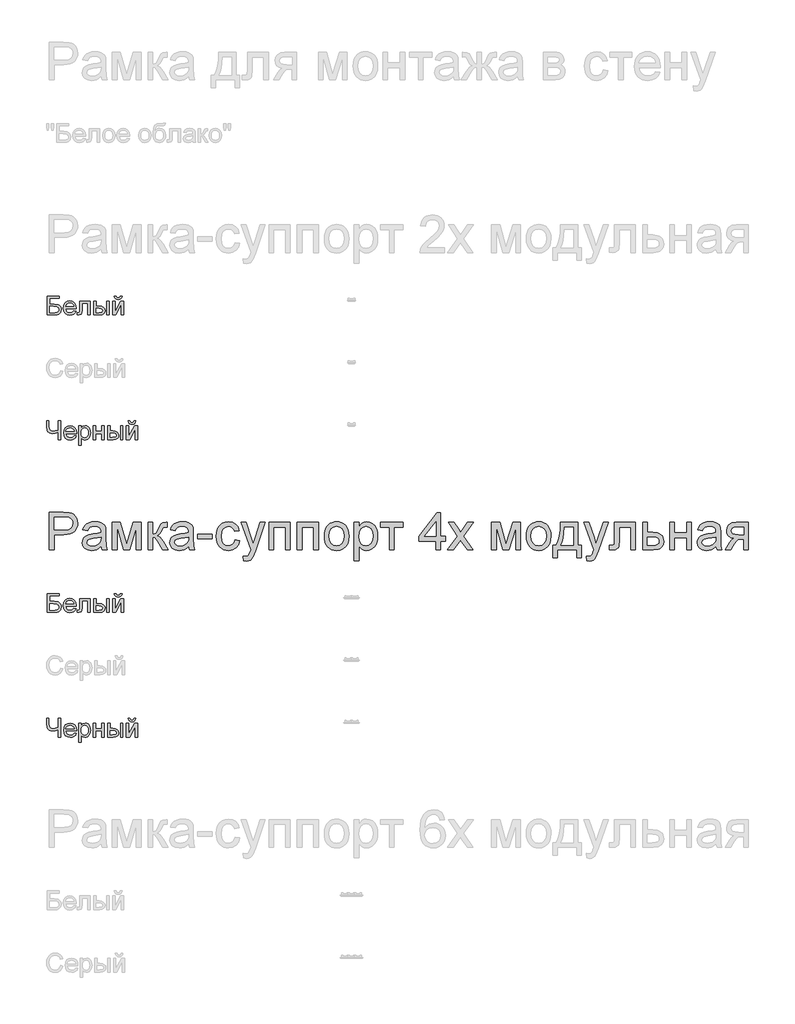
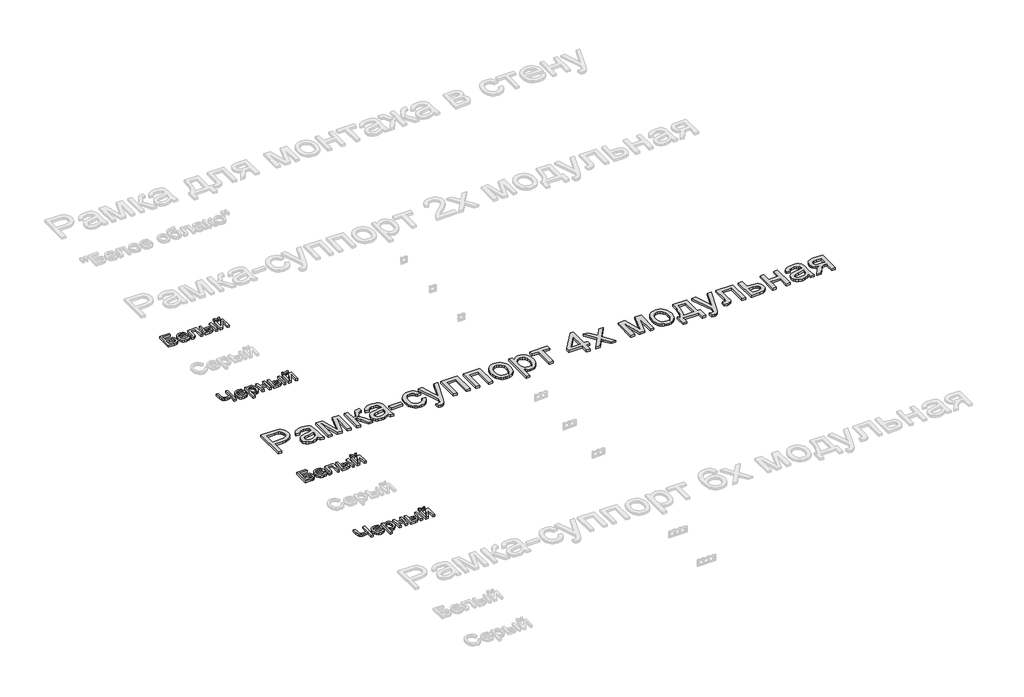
# One storey, part 43 of 168: 5 proxies.
"""IFC4 building model written with IfcOpenShell, lengths in millimetres."""

from ifc_helpers import new_model, si_unit, origin, origin_with_axes, place, context, project, spatial, polyline, outline, extrude, element, save

model = new_model("IFC4")

# Units and contexts
model_context = context("Model", 3, world=origin())
ifc_project = project(units=[si_unit("LENGTHUNIT", "METRE", prefix="MILLI")], contexts=[model_context])

# Site, building, storey
site = spatial("IfcSite", under=ifc_project)
building = spatial("IfcBuilding", under=site)
storey = spatial("IfcBuildingStorey", under=building, Name="Этаж 01", Elevation=0.0)

# Proxies
placement = place(None, origin())
element("IfcBuildingElementProxy", 1, Name="300 мм Arial 2", ObjectType="300 мм Arial 2", at=placement, inside=storey, context=model_context, shape_type="SweptSolid", body=[
    extrude(outline(polyline([(32899.0945017, -36116.3278495), (32899.0945017, -35814.958919), (33010.7834754, -35814.958919), (33055.8122316, -35817.8283986), (33075.8893915, -35823.1902787), (33092.4164901, -35831.918279), (33105.7246213, -35844.4078727), (33116.1448788, -35861.054533), (33122.8771193, -35880.6902345), (33125.1211995, -35902.1469519), (33123.6059855, -35920.6468177), (33119.0603436, -35937.6659585), (33111.4842738, -35953.2043743), (33100.877776, -35967.262065), (33086.3165468, -35978.9147272), (33066.8762826, -35987.2380574), (33042.5569835, -35992.2320554), (33013.3586494, -35993.8967215), (32936.765618, -35993.8967215), (32936.765618, -36116.3278495), (32899.0945017, -36116.3278495)]), holes=[polyline([(32936.765618, -35956.2256052), (33015.5659413, -35956.2256052), (33048.9696265, -35952.7675144), (33071.0425462, -35942.3932421), (33083.3481989, -35925.7465819), (33087.4500832, -35903.4713271), (33085.0312591, -35886.5487553), (33077.7747867, -35872.2749339), (33066.581977, -35861.5327796), (33052.3541408, -35855.2052093), (33014.6830245, -35852.6300353), (32936.765618, -35852.6300353), (32936.765618, -35956.2256052)])]), origin_with_axes(), (0.0, 0.0, 1.0), 20.0),
    extrude(outline(polyline([(33313.476781, -36088.0745122), (33295.4781544, -36103.5071619), (33276.9460989, -36113.6055227), (33257.4575502, -36119.1789349), (33236.589444, -36121.036739), (33205.1079423, -36116.5669728), (33181.8853914, -36103.157674), (33167.5655847, -36082.7954056), (33162.7923158, -36057.4667302), (33164.5949376, -36041.8501395), (33170.0028029, -36027.6682886), (33178.3445271, -36015.5281828), (33188.9487257, -36006.0368273), (33215.3258647, -35993.6759923), (33247.9202095, -35988.0106095), (33286.4374544, -35982.0509212), (33313.2560518, -35975.0611633), (33313.476781, -35966.6734538), (33310.883213, -35949.8612466), (33303.1025088, -35938.861575), (33285.7016904, -35930.6945947), (33261.4582669, -35927.9722679), (33239.0174652, -35929.7840868), (33223.3456922, -35935.2195432), (33212.6587202, -35945.2719188), (33205.1723216, -35960.9344947), (33167.5012053, -35956.2256052), (33174.0403078, -35935.6242134), (33183.7983777, -35919.4374056), (33197.685923, -35907.0581765), (33216.6134517, -35897.8795207), (33239.7624262, -35892.1957439), (33266.3143092, -35890.3011516), (33291.7809404, -35891.9750147), (33311.9684648, -35896.9966039), (33327.1895824, -35904.5473819), (33337.7569927, -35913.8088111), (33344.7651447, -35925.2591382), (33349.3084874, -35939.3766098), (33351.1478973, -35972.3388365), (33351.1478973, -36019.2070027), (33353.0608837, -36084.6532097), (33360.5656764, -36116.3278495), (33322.8945601, -36116.3278495), (33313.476781, -36088.0745122)]), holes=[polyline([(33313.476781, -36012.7322796), (33252.7026754, -36024.2837743), (33220.2922716, -36030.3906154), (33205.61378, -36040.3234293), (33200.4634321, -36054.8179799), (33203.2685323, -36066.0199866), (33211.683833, -36075.1986424), (33225.525393, -36081.3238776), (33244.6092715, -36083.3656227), (33264.8427813, -36081.1123455), (33282.7218462, -36074.3525138), (33297.2163968, -36064.3921088), (33307.2963635, -36052.5371115), (33311.7661297, -36040.3234293), (33313.2560518, -36023.4008575), (33313.476781, -36012.7322796)])]), origin_with_axes(), (0.0, 0.0, 1.0), 20.0),
    extrude(outline(polyline([(33402.9456823, -35895.0100412), (33467.7664898, -35895.0100412), (33517.7248647, -36072.18201), (33571.5827888, -35895.0100412), (33633.6812696, -35895.0100412), (33633.6812696, -36116.3278495), (33596.0101533, -36116.3278495), (33596.0101533, -35938.125811), (33541.8579236, -36116.3278495), (33492.4145835, -36116.3278495), (33440.6167986, -35929.5909487), (33440.6167986, -36116.3278495), (33402.9456823, -36116.3278495), (33402.9456823, -35895.0100412)])), origin_with_axes(), (0.0, 0.0, 1.0), 20.0),
    extrude(outline(polyline([(33690.1879441, -35895.0100412), (33727.8590604, -35895.0100412), (33727.8590604, -35989.1878319), (33743.1813455, -35987.4955748), (33753.0957653, -35982.4188032), (33761.8697508, -35969.1750514), (33773.7707334, -35942.9818533), (33790.9508226, -35908.9527688), (33806.1075608, -35897.8795207), (33833.6619222, -35895.0100412), (33840.8724093, -35895.0100412), (33840.8724093, -35932.9018867), (33830.7188662, -35932.6811575), (33812.3247665, -35936.654283), (33799.3753203, -35961.4495295), (33784.1817939, -35988.2681269), (33762.8814263, -36001.4015142), (33774.8191971, -36006.7036134), (33786.6466032, -36016.0616117), (33809.9703217, -36046.9453052), (33850.2901884, -36116.3278495), (33807.4687241, -36116.3278495), (33767.9581979, -36048.4168332), (33748.0925701, -36019.6852493), (33738.8035497, -36014.470522), (33727.8590604, -36012.7322796), (33727.8590604, -36116.3278495), (33690.1879441, -36116.3278495), (33690.1879441, -35895.0100412)])), origin_with_axes(), (0.0, 0.0, 1.0), 20.0),
    extrude(outline(polyline([(34015.1013222, -36088.0745122), (33997.1026956, -36103.5071619), (33978.5706401, -36113.6055227), (33959.0820914, -36119.1789349), (33938.2139852, -36121.036739), (33906.7324835, -36116.5669728), (33883.5099326, -36103.157674), (33869.1901259, -36082.7954056), (33864.416857, -36057.4667302), (33866.2194788, -36041.8501395), (33871.6273441, -36027.6682886), (33879.9690683, -36015.5281828), (33890.5732669, -36006.0368273), (33916.9504059, -35993.6759923), (33949.5447507, -35988.0106095), (33988.0619956, -35982.0509212), (34014.880593, -35975.0611633), (34015.1013222, -35966.6734538), (34012.5077542, -35949.8612466), (34004.72705, -35938.861575), (33987.3262316, -35930.6945947), (33963.0828081, -35927.9722679), (33940.6420064, -35929.7840868), (33924.9702334, -35935.2195432), (33914.2832614, -35945.2719188), (33906.7968628, -35960.9344947), (33869.1257465, -35956.2256052), (33875.664849, -35935.6242134), (33885.4229189, -35919.4374056), (33899.3104642, -35907.0581765), (33918.2379929, -35897.8795207), (33941.3869674, -35892.1957439), (33967.9388504, -35890.3011516), (33993.4054816, -35891.9750147), (34013.593006, -35896.9966039), (34028.8141236, -35904.5473819), (34039.3815339, -35913.8088111), (34046.3896859, -35925.2591382), (34050.9330286, -35939.3766098), (34052.7724385, -35972.3388365), (34052.7724385, -36019.2070027), (34054.6854249, -36084.6532097), (34062.1902176, -36116.3278495), (34024.5191013, -36116.3278495), (34015.1013222, -36088.0745122)]), holes=[polyline([(34015.1013222, -36012.7322796), (33954.3272166, -36024.2837743), (33921.9168128, -36030.3906154), (33907.2383212, -36040.3234293), (33902.0879733, -36054.8179799), (33904.8930735, -36066.0199866), (33913.3083742, -36075.1986424), (33927.1499342, -36081.3238776), (33946.2338127, -36083.3656227), (33966.4673225, -36081.1123455), (33984.3463874, -36074.3525138), (33998.840938, -36064.3921088), (34008.9209047, -36052.5371115), (34013.3906709, -36040.3234293), (34014.880593, -36023.4008575), (34015.1013222, -36012.7322796)])]), origin_with_axes(), (0.0, 0.0, 1.0), 20.0),
    extrude(outline(polyline([(34085.7346653, -36026.8589482), (34085.7346653, -35989.1878319), (34203.4569038, -35989.1878319), (34203.4569038, -36026.8589482), (34085.7346653, -36026.8589482)])), origin_with_axes(), (0.0, 0.0, 1.0), 20.0),
    extrude(outline(polyline([(34387.1035957, -36036.2767273), (34424.7747121, -36040.9856168), (34414.2716811, -36074.4904696), (34394.5348121, -36099.8099479), (34367.421909, -36115.7300412), (34334.790776, -36121.036739), (34313.6628532, -36119.1858327), (34294.7192297, -36113.6331138), (34277.9599056, -36104.3785824), (34263.3848808, -36091.4222384), (34251.587365, -36075.0078036), (34243.1605681, -36055.3789999), (34238.1044899, -36032.5358273), (34236.4191305, -36006.4782857), (34239.2978071, -35972.9550389), (34247.933837, -35943.9015583), (34262.4651758, -35920.4398841), (34283.0297793, -35903.6920562), (34307.6318877, -35893.6488778), (34334.2757412, -35890.3011516), (34366.1067309, -35894.8996766), (34391.5549679, -35908.6952514), (34409.8111119, -35930.9521121), (34420.0658225, -35960.9344947), (34382.3947062, -35965.6433842), (34375.5612982, -35949.2082561), (34364.9203114, -35937.4268352), (34351.0603573, -35930.3359098), (34334.5700468, -35927.9722679), (34310.2254558, -35932.6259752), (34290.902454, -35946.5870969), (34278.2932986, -35970.6097912), (34274.0902468, -36005.4482161), (34278.2013281, -36040.7556906), (34290.534572, -36064.8611583), (34309.5080859, -36078.7395066), (34333.5399773, -36083.3656227), (34353.04692, -36080.477749), (34369.0405898, -36071.814128), (34380.6748579, -36057.1540305), (34387.1035957, -36036.2767273)])), origin_with_axes(), (0.0, 0.0, 1.0), 20.0),
    extrude(outline(polyline([(34457.7369388, -36201.0878612), (34453.0280493, -36164.8146964), (34472.157913, -36168.1256344), (34490.036978, -36163.9685678), (34500.9998615, -36152.380285), (34511.3005573, -36124.6419826), (34514.2436133, -36115.5185091), (34434.1924911, -35895.0100412), (34473.9237466, -35895.0100412), (34516.3773289, -36017.8826276), (34531.1661851, -36067.0316621), (34545.9550413, -36023.6215867), (34589.5858459, -35895.0100412), (34629.0227958, -35895.0100412), (34551.988306, -36121.6253502), (34531.9755254, -36170.7743847), (34521.7300119, -36186.4645518), (34510.1233349, -36197.3354648), (34496.6404598, -36203.6814292), (34480.7663517, -36205.7967507), (34457.7369388, -36201.0878612)])), origin_with_axes(), (0.0, 0.0, 1.0), 20.0),
    extrude(outline(polyline([(34660.219189, -35895.0100412), (34829.7392123, -35895.0100412), (34829.7392123, -36116.3278495), (34792.068096, -36116.3278495), (34792.068096, -35932.6811575), (34697.8903053, -35932.6811575), (34697.8903053, -36116.3278495), (34660.219189, -36116.3278495), (34660.219189, -35895.0100412)])), origin_with_axes(), (0.0, 0.0, 1.0), 20.0),
    extrude(outline(polyline([(34886.2458868, -35895.0100412), (35055.7659102, -35895.0100412), (35055.7659102, -36116.3278495), (35018.0947939, -36116.3278495), (35018.0947939, -35932.6811575), (34923.9170031, -35932.6811575), (34923.9170031, -36116.3278495), (34886.2458868, -36116.3278495), (34886.2458868, -35895.0100412)])), origin_with_axes(), (0.0, 0.0, 1.0), 20.0),
    extrude(outline(polyline([(35102.8548056, -36005.6689453), (35104.8919521, -35977.0063394), (35111.0033918, -35952.3076619), (35121.1891245, -35931.572913), (35135.4491503, -35914.8020925), (35149.8057452, -35904.0829309), (35165.6522621, -35896.4263868), (35182.9887012, -35891.8324604), (35201.8150623, -35890.3011516), (35222.5980957, -35892.1658535), (35241.3899679, -35897.7599591), (35258.1906788, -35907.0834684), (35273.0002283, -35920.1363814), (35285.0874511, -35936.4772398), (35293.7211817, -35955.6645851), (35298.9014201, -35977.6984174), (35300.6281662, -36002.5787366), (35297.5747456, -36040.636129), (35288.4144839, -36069.6068361), (35273.4140956, -36091.3026767), (35252.840295, -36107.5354698), (35228.4037335, -36117.6614217), (35201.8150623, -36121.036739), (35180.7285262, -36119.1789349), (35161.76191, -36113.6055227), (35144.9152139, -36104.3165023), (35130.1884378, -36091.3118738), (35118.2299737, -36074.8123663), (35109.6882136, -36055.0387091), (35104.5631576, -36031.9909021), (35102.8548056, -36005.6689453)]), holes=[polyline([(35140.5259219, -36005.5953689), (35144.8853235, -36039.6888328), (35157.9635284, -36063.9782415), (35177.6452152, -36078.5187774), (35201.8150623, -36083.3656227), (35225.8745448, -36078.4911863), (35245.5194433, -36063.8678769), (35258.5976482, -36039.2565715), (35262.9570499, -36004.4181465), (35258.5700571, -35971.317964), (35245.4090787, -35947.3596491), (35225.736589, -35932.8191132), (35201.8150623, -35927.9722679), (35177.6452152, -35932.8007191), (35157.9635284, -35947.2860727), (35144.8853235, -35971.5202991), (35140.5259219, -36005.5953689)])]), origin_with_axes(), (0.0, 0.0, 1.0), 20.0),
    extrude(outline(polyline([(35343.008172, -36201.0878612), (35343.008172, -35895.0100412), (35380.6792883, -35895.0100412), (35380.6792883, -35931.9453935), (35392.966547, -35913.7260377), (35406.7253336, -35900.7122121), (35422.7649886, -35892.9039167), (35441.8948523, -35890.3011516), (35467.3706805, -35893.9431834), (35489.6459353, -35904.8692786), (35507.7825177, -35922.4172498), (35520.8423285, -35945.9249093), (35528.7333973, -35973.6816058), (35531.3637535, -36003.9766881), (35528.3931064, -36036.1939539), (35519.4811651, -36065.0083111), (35504.9130381, -36088.957429), (35484.973834, -36106.5789766), (35461.751283, -36117.4222984), (35437.3331156, -36121.036739), (35420.0150707, -36118.6179149), (35404.5548298, -36111.3614425), (35391.320275, -36100.4077561), (35380.6792883, -36086.8972898), (35380.6792883, -36201.0878612), (35343.008172, -36201.0878612)]), holes=[polyline([(35380.6792883, -36007.4347789), (35384.7535814, -36041.206346), (35396.9764607, -36064.8243701), (35415.0118755, -36078.7303096), (35436.5237752, -36083.3656227), (35458.3851628, -36078.5647627), (35476.8804301, -36064.1621825), (35489.4895854, -36039.6796358), (35493.6926372, -36004.6388757), (35489.590753, -35971.0512496), (35477.2851003, -35947.1021317), (35459.2772766, -35932.7547339), (35438.0688796, -35927.9722679), (35416.7777091, -35933.0582365), (35398.0801067, -35948.3161423), (35385.0294929, -35973.2677386), (35380.6792883, -36007.4347789)])]), origin_with_axes(), (0.0, 0.0, 1.0), 20.0),
    extrude(outline(polyline([(35554.9082012, -35895.0100412), (35733.8460037, -35895.0100412), (35733.8460037, -35932.6811575), (35663.2126606, -35932.6811575), (35663.2126606, -36116.3278495), (35625.5415443, -36116.3278495), (35625.5415443, -35932.6811575), (35554.9082012, -35932.6811575), (35554.9082012, -35895.0100412)])), origin_with_axes(), (0.0, 0.0, 1.0), 20.0),
    extrude(outline(polyline([(35997.5438178, -36116.3278495), (35997.5438178, -36045.6945064), (35860.9860212, -36045.6945064), (35860.9860212, -36008.0233901), (36006.9615969, -35819.6678086), (36035.2149341, -35819.6678086), (36035.2149341, -36008.0233901), (36072.8860504, -36008.0233901), (36072.8860504, -36045.6945064), (36035.2149341, -36045.6945064), (36035.2149341, -36116.3278495), (35997.5438178, -36116.3278495)]), holes=[polyline([(35997.5438178, -36008.0233901), (35997.5438178, -35891.6255268), (35907.3391526, -36008.0233901), (35997.5438178, -36008.0233901)])]), origin_with_axes(), (0.0, 0.0, 1.0), 20.0),
    extrude(outline(polyline([(36091.7216086, -36116.3278495), (36172.2141891, -36005.0803341), (36096.4304981, -35895.0100412), (36141.7535599, -35895.0100412), (36178.3210303, -35947.9850485), (36195.3907548, -35973.0010241), (36210.179611, -35952.5467852), (36251.8238529, -35895.0100412), (36297.1469147, -35895.0100412), (36217.537251, -36005.0803341), (36294.2038587, -36116.3278495), (36248.8807969, -36116.3278495), (36202.7483947, -36049.4469027), (36194.2871089, -36037.2332205), (36137.0446704, -36116.3278495), (36091.7216086, -36116.3278495)])), origin_with_axes(), (0.0, 0.0, 1.0), 20.0),
    extrude(outline(polyline([(36444.888324, -35895.0100412), (36509.7091315, -35895.0100412), (36559.6675065, -36072.18201), (36613.5254306, -35895.0100412), (36675.6239113, -35895.0100412), (36675.6239113, -36116.3278495), (36637.952795, -36116.3278495), (36637.952795, -35938.125811), (36583.8005653, -36116.3278495), (36534.3572252, -36116.3278495), (36482.5594403, -35929.5909487), (36482.5594403, -36116.3278495), (36444.888324, -36116.3278495), (36444.888324, -35895.0100412)])), origin_with_axes(), (0.0, 0.0, 1.0), 20.0),
    extrude(outline(polyline([(36722.7128067, -36005.6689453), (36724.7499533, -35977.0063394), (36730.8613929, -35952.3076619), (36741.0471257, -35931.572913), (36755.3071515, -35914.8020925), (36769.6637464, -35904.0829309), (36785.5102633, -35896.4263868), (36802.8467023, -35891.8324604), (36821.6730634, -35890.3011516), (36842.4560969, -35892.1658535), (36861.2479691, -35897.7599591), (36878.0486799, -35907.0834684), (36892.8582295, -35920.1363814), (36904.9454523, -35936.4772398), (36913.5791829, -35955.6645851), (36918.7594212, -35977.6984174), (36920.4861673, -36002.5787366), (36917.4327468, -36040.636129), (36908.2724851, -36069.6068361), (36893.2720967, -36091.3026767), (36872.6982962, -36107.5354698), (36848.2617346, -36117.6614217), (36821.6730634, -36121.036739), (36800.5865273, -36119.1789349), (36781.6199112, -36113.6055227), (36764.7732151, -36104.3165023), (36750.046439, -36091.3118738), (36738.0879749, -36074.8123663), (36729.5462148, -36055.0387091), (36724.4211587, -36031.9909021), (36722.7128067, -36005.6689453)]), holes=[polyline([(36760.383923, -36005.5953689), (36764.7433247, -36039.6888328), (36777.8215296, -36063.9782415), (36797.5032163, -36078.5187774), (36821.6730634, -36083.3656227), (36845.7325459, -36078.4911863), (36865.3774445, -36063.8678769), (36878.4556494, -36039.2565715), (36882.815051, -36004.4181465), (36878.4280582, -35971.317964), (36865.2670799, -35947.3596491), (36845.5945902, -35932.8191132), (36821.6730634, -35927.9722679), (36797.5032163, -35932.8007191), (36777.8215296, -35947.2860727), (36764.7433247, -35971.5202991), (36760.383923, -36005.5953689)])]), origin_with_axes(), (0.0, 0.0, 1.0), 20.0),
    extrude(outline(polyline([(36995.8283999, -35895.0100412), (37137.0950861, -35895.0100412), (37137.0950861, -36078.6567332), (37165.3484233, -36078.6567332), (37165.3484233, -36177.5434135), (37127.677307, -36177.5434135), (37127.677307, -36116.3278495), (36972.2839523, -36116.3278495), (36972.2839523, -36177.5434135), (36934.6128359, -36177.5434135), (36934.6128359, -36078.6567332), (36958.1572836, -36078.6567332), (36975.2729935, -36047.7270544), (36987.2567495, -36006.8093795), (36994.1085516, -35955.9037084), (36995.8283999, -35895.0100412)]), holes=[polyline([(37028.7906267, -35932.6811575), (37025.700418, -35978.8043626), (37019.9614588, -36018.5080269), (37011.5737493, -36051.7921505), (37000.5372895, -36078.6567332), (37099.4239698, -36078.6567332), (37099.4239698, -35932.6811575), (37028.7906267, -35932.6811575)])]), origin_with_axes(), (0.0, 0.0, 1.0), 20.0),
    extrude(outline(polyline([(37207.7284292, -36201.0878612), (37203.0195396, -36164.8146964), (37222.1494034, -36168.1256344), (37240.0284683, -36163.9685678), (37250.9913518, -36152.380285), (37261.2920477, -36124.6419826), (37264.2351036, -36115.5185091), (37184.1839815, -35895.0100412), (37223.915237, -35895.0100412), (37266.3688192, -36017.8826276), (37281.1576754, -36067.0316621), (37295.9465316, -36023.6215867), (37339.5773362, -35895.0100412), (37379.0142861, -35895.0100412), (37301.9797963, -36121.6253502), (37281.9670158, -36170.7743847), (37271.7215022, -36186.4645518), (37260.1148253, -36197.3354648), (37246.6319502, -36203.6814292), (37230.7578421, -36205.7967507), (37207.7284292, -36201.0878612)])), origin_with_axes(), (0.0, 0.0, 1.0), 20.0),
    extrude(outline(polyline([(37429.0462375, -35895.0100412), (37598.5662608, -35895.0100412), (37598.5662608, -36116.1071203), (37560.8951445, -36116.1071203), (37560.8951445, -35932.6811575), (37466.7173538, -35932.6811575), (37466.7173538, -36038.2632901), (37464.178968, -36086.9708662), (37459.4240932, -36097.9981291), (37450.2362404, -36107.5354698), (37436.2935128, -36114.1297545), (37417.2740136, -36116.3278495), (37386.6662316, -36114.4148631), (37386.6662316, -36078.6567332), (37403.515227, -36078.6567332), (37420.5481634, -36076.3390766), (37427.3539803, -36068.9814367), (37429.0462375, -36036.1295745), (37429.0462375, -35895.0100412)])), origin_with_axes(), (0.0, 0.0, 1.0), 20.0),
    extrude(outline(polyline([(37655.0729353, -35895.0100412), (37692.7440516, -35895.0100412), (37692.7440516, -35975.0611633), (37736.154127, -35975.0611633), (37773.7884551, -35979.7792499), (37788.9359963, -35985.6768581), (37801.6371222, -35993.9335097), (37811.6803007, -36004.2640959), (37818.8539996, -36016.3835084), (37824.5929587, -36045.988812), (37819.7093252, -36072.9453652), (37805.0584247, -36095.6896695), (37793.8265276, -36104.7188733), (37779.66537, -36111.1683045), (37742.5552738, -36116.3278495), (37655.0729353, -36116.3278495), (37655.0729353, -35895.0100412)]), holes=[polyline([(37692.7440516, -36078.6567332), (37727.9135703, -36078.6567332), (37755.2012173, -36076.6793674), (37773.3469968, -36070.7472703), (37783.528131, -36060.6213183), (37786.9218424, -36046.0623884), (37784.4110478, -36033.7567356), (37776.8786639, -36022.8858227), (37760.7378414, -36015.2706654), (37732.4017307, -36012.7322796), (37692.7440516, -36012.7322796), (37692.7440516, -36078.6567332)])]), origin_with_axes(), (0.0, 0.0, 1.0), 20.0),
    extrude(outline(polyline([(37871.6818541, -35895.0100412), (37909.3529704, -35895.0100412), (37909.3529704, -35979.7700529), (38008.2396507, -35979.7700529), (38008.2396507, -35895.0100412), (38045.910767, -35895.0100412), (38045.910767, -36116.3278495), (38008.2396507, -36116.3278495), (38008.2396507, -36017.4411692), (37909.3529704, -36017.4411692), (37909.3529704, -36116.3278495), (37871.6818541, -36116.3278495), (37871.6818541, -35895.0100412)])), origin_with_axes(), (0.0, 0.0, 1.0), 20.0),
    extrude(outline(polyline([(38243.6841276, -36088.0745122), (38225.685501, -36103.5071619), (38207.1534455, -36113.6055227), (38187.6648968, -36119.1789349), (38166.7967906, -36121.036739), (38135.3152889, -36116.5669728), (38112.0927379, -36103.157674), (38097.7729312, -36082.7954056), (38092.9996624, -36057.4667302), (38094.8022841, -36041.8501395), (38100.2101495, -36027.6682886), (38108.5518737, -36015.5281828), (38119.1560722, -36006.0368273), (38145.5332113, -35993.6759923), (38178.127556, -35988.0106095), (38216.6448009, -35982.0509212), (38243.4633984, -35975.0611633), (38243.6841276, -35966.6734538), (38241.0905595, -35949.8612466), (38233.3098553, -35938.861575), (38215.909037, -35930.6945947), (38191.6656135, -35927.9722679), (38169.2248118, -35929.7840868), (38153.5530388, -35935.2195432), (38142.8660668, -35945.2719188), (38135.3796682, -35960.9344947), (38097.7085519, -35956.2256052), (38104.2476544, -35935.6242134), (38114.0057243, -35919.4374056), (38127.8932696, -35907.0581765), (38146.8207983, -35897.8795207), (38169.9697728, -35892.1957439), (38196.5216558, -35890.3011516), (38221.9882869, -35891.9750147), (38242.1758114, -35896.9966039), (38257.396929, -35904.5473819), (38267.9643393, -35913.8088111), (38274.9724913, -35925.2591382), (38279.5158339, -35939.3766098), (38281.3552439, -35972.3388365), (38281.3552439, -36019.2070027), (38283.2682303, -36084.6532097), (38290.773023, -36116.3278495), (38253.1019067, -36116.3278495), (38243.6841276, -36088.0745122)]), holes=[polyline([(38243.6841276, -36012.7322796), (38182.910022, -36024.2837743), (38150.4996182, -36030.3906154), (38135.8211266, -36040.3234293), (38130.6707787, -36054.8179799), (38133.4758789, -36066.0199866), (38141.8911795, -36075.1986424), (38155.7327396, -36081.3238776), (38174.8166181, -36083.3656227), (38195.0501278, -36081.1123455), (38212.9291928, -36074.3525138), (38227.4237434, -36064.3921088), (38237.5037101, -36052.5371115), (38241.9734763, -36040.3234293), (38243.4633984, -36023.4008575), (38243.6841276, -36012.7322796)])]), origin_with_axes(), (0.0, 0.0, 1.0), 20.0),
    extrude(outline(polyline([(38502.6730522, -35895.0100412), (38502.6730522, -36116.3278495), (38465.0019359, -36116.3278495), (38465.0019359, -36031.5678378), (38444.4741206, -36031.5678378), (38416.5150889, -36036.3503037), (38405.3498704, -36046.7797583), (38390.2483145, -36068.5031901), (38360.2291437, -36116.3278495), (38316.6719154, -36116.3278495), (38354.4901845, -36055.8480495), (38371.1920271, -36034.1430117), (38386.5694945, -36024.5045035), (38360.8177549, -36016.6134347), (38342.7179607, -36001.6222434), (38332.0125946, -35981.6830392), (38328.4441393, -35958.9479319), (38333.3185757, -35933.1594041), (38347.941885, -35912.7419533), (38371.7990324, -35899.4430192), (38404.3749831, -35895.0100412), (38502.6730522, -35895.0100412)]), holes=[polyline([(38465.0019359, -35932.6811575), (38415.3378665, -35932.6811575), (38389.6872944, -35934.8608583), (38375.1283645, -35941.3999608), (38368.3685328, -35950.8637251), (38366.1152556, -35961.8174115), (38369.4353906, -35976.1740063), (38379.3957956, -35986.1344114), (38397.7990924, -35991.9561439), (38426.4479028, -35993.8967215), (38465.0019359, -35993.8967215), (38465.0019359, -35932.6811575)])]), origin_with_axes(), (0.0, 0.0, 1.0), 20.0),
])
element("IfcBuildingElementProxy", 2, Name="150", ObjectType="150", at=placement, inside=storey, context=model_context, shape_type="SweptSolid", body=[
    extrude(outline(polyline([(32882.6133883, -36465.6433842), (32976.791179, -36465.6433842), (32976.791179, -36484.4789424), (32901.4489464, -36484.4789424), (32901.4489464, -36529.213393), (32936.7288298, -36529.213393), (32967.8148584, -36533.0393658), (32978.2167218, -36538.5667927), (32986.3193227, -36547.4971282), (32991.53405, -36558.9934405), (32993.2722924, -36572.2187982), (32988.3242796, -36593.6847127), (32973.5538175, -36610.0002791), (32960.2824745, -36614.7459569), (32940.1133441, -36616.3278495), (32882.6133883, -36616.3278495), (32882.6133883, -36465.6433842)]), holes=[polyline([(32901.4489464, -36597.4922913), (32941.8056013, -36597.4922913), (32956.0702257, -36595.9379899), (32966.269754, -36591.2750856), (32972.3949892, -36583.5035784), (32974.4367343, -36572.6234684), (32969.7646329, -36557.8714004), (32956.7600044, -36549.9987257), (32928.3779085, -36548.0489512), (32901.4489464, -36548.0489512), (32901.4489464, -36597.4922913)])]), origin_with_axes(), (0.0, 0.0, 1.0), 20.0),
    extrude(outline(polyline([(33094.2926883, -36583.3656227), (33112.7603645, -36585.7200675), (33106.1062989, -36599.6352039), (33095.4883048, -36610.0370673), (33081.1455055, -36616.5209875), (33063.3170243, -36618.6822942), (33041.2165134, -36614.9528905), (33024.2111682, -36603.7646793), (33013.3678464, -36585.8442276), (33009.7534058, -36561.9181024), (33013.4046346, -36537.1872352), (33024.358321, -36518.6919679), (33041.13374, -36507.1588674), (33062.2501665, -36503.3145005), (33082.709004, -36507.1496703), (33099.0567601, -36518.6551797), (33109.7759218, -36537.1136589), (33113.3489756, -36561.8077378), (33113.2386111, -36566.8845093), (33028.588964, -36566.8845093), (33031.8493181, -36580.9835868), (33039.4230887, -36591.348662), (33050.3537825, -36597.7222176), (33063.6849063, -36599.8467361), (33082.1525825, -36595.9103987), (33094.2926883, -36583.3656227)]), holes=[polyline([(33028.588964, -36548.0489512), (33094.5134175, -36548.0489512), (33091.9658347, -36538.0977432), (33086.9718366, -36530.9792266), (33075.990559, -36524.3573507), (33062.1765901, -36522.1500587), (33049.4800628, -36523.9112937), (33038.9816303, -36529.1949989), (33031.6837712, -36537.4309571), (33028.588964, -36548.0489512)])]), origin_with_axes(), (0.0, 0.0, 1.0), 20.0),
    extrude(outline(polyline([(33141.6023129, -36505.6689453), (33226.3623246, -36505.6689453), (33226.3623246, -36616.2174849), (33207.5267664, -36616.2174849), (33207.5267664, -36524.5045035), (33160.437871, -36524.5045035), (33160.437871, -36577.2955698), (33159.1686781, -36601.6493579), (33152.1973143, -36611.9316596), (33135.716201, -36616.3278495), (33120.41231, -36615.3713563), (33120.41231, -36597.4922913), (33128.8368076, -36597.4922913), (33137.3532758, -36596.333463), (33140.7561843, -36592.6546431), (33141.6023129, -36576.228712), (33141.6023129, -36505.6689453)])), origin_with_axes(), (0.0, 0.0, 1.0), 20.0),
    extrude(outline(polyline([(33358.2112316, -36505.6689453), (33377.0467898, -36505.6689453), (33377.0467898, -36616.3278495), (33358.2112316, -36616.3278495), (33358.2112316, -36505.6689453)])), origin_with_axes(), (0.0, 0.0, 1.0), 20.0),
    extrude(outline(polyline([(33254.6156618, -36505.6689453), (33273.4512199, -36505.6689453), (33273.4512199, -36545.6945064), (33296.7381502, -36545.6945064), (33316.8658939, -36548.0535497), (33331.7789103, -36555.1306796), (33341.0081498, -36566.3556789), (33344.084563, -36581.1583307), (33341.5047905, -36594.6366073), (33333.7654731, -36606.0087595), (33320.3607729, -36613.748077), (33300.7848522, -36616.3278495), (33254.6156618, -36616.3278495), (33254.6156618, -36505.6689453)]), holes=[polyline([(33273.4512199, -36597.4922913), (33292.8018129, -36597.4922913), (33317.7810004, -36593.5375599), (33323.3820037, -36588.4745839), (33325.2490049, -36581.1951189), (33319.7123808, -36569.6068361), (33310.8326292, -36565.7992574), (33295.2666223, -36564.5300645), (33273.4512199, -36564.5300645), (33273.4512199, -36597.4922913)])]), origin_with_axes(), (0.0, 0.0, 1.0), 20.0),
    extrude(outline(polyline([(33405.300127, -36505.6689453), (33424.1356852, -36505.6689453), (33424.1356852, -36590.061075), (33470.4152402, -36505.6689453), (33494.7690282, -36505.6689453), (33494.7690282, -36616.3278495), (33475.9334701, -36616.3278495), (33475.9334701, -36532.4507546), (33429.9482207, -36616.3278495), (33405.300127, -36616.3278495), (33405.300127, -36505.6689453)])), origin_with_axes(), (0.0, 0.0, 1.0), 20.0),
    extrude(outline(polyline([(33466.515691, -36465.6433842), (33480.6423596, -36465.6433842), (33477.6027346, -36477.7053152), (33471.5004921, -36486.5942639), (33462.6115433, -36492.0711071), (33451.2118, -36493.8967215), (33438.8417679, -36492.0849026), (33429.2492449, -36486.6494462), (33422.6917483, -36477.774293), (33419.4267956, -36465.6433842), (33433.5534643, -36465.6433842), (33438.850965, -36476.2567798), (33449.5195428, -36479.7700529), (33461.2181903, -36476.3671444), (33466.515691, -36465.6433842)])), origin_with_axes(), (0.0, 0.0, 1.0), 20.0),
])
element("IfcBuildingElementProxy", 3, Name="150", ObjectType="150", at=placement, inside=storey, context=model_context, shape_type="SweptSolid", body=[
    extrude(outline(polyline([(32988.5634029, -37616.3278495), (32969.7278447, -37616.3278495), (32969.7278447, -37555.9952023), (32944.7486573, -37564.1621825), (32923.0804077, -37566.8845093), (32908.3973176, -37565.0221067), (32895.5444404, -37559.4348989), (32885.5840354, -37550.9828101), (32879.5783618, -37540.5257644), (32875.550054, -37510.5249876), (32875.550054, -37465.6433842), (32894.3856121, -37465.6433842), (32894.3856121, -37507.9866019), (32896.6480864, -37528.3534688), (32903.4355092, -37540.3050352), (32913.3959142, -37546.1129722), (32925.1773351, -37548.0489512), (32946.909964, -37545.7129005), (32969.7278447, -37538.7047485), (32969.7278447, -37465.6433842), (32988.5634029, -37465.6433842), (32988.5634029, -37616.3278495)])), origin_with_axes(), (0.0, 0.0, 1.0), 20.0),
    extrude(outline(polyline([(33096.6471331, -37583.3656227), (33115.1148092, -37585.7200675), (33108.4607436, -37599.6352039), (33097.8427496, -37610.0370673), (33083.4999503, -37616.5209875), (33065.6714691, -37618.6822942), (33043.5709582, -37614.9528905), (33026.565613, -37603.7646793), (33015.7222912, -37585.8442276), (33012.1078506, -37561.9181024), (33015.7590794, -37537.1872352), (33026.7127658, -37518.6919679), (33043.4881848, -37507.1588674), (33064.6046113, -37503.3145005), (33085.0634487, -37507.1496703), (33101.4112049, -37518.6551797), (33112.1303665, -37537.1136589), (33115.7034204, -37561.8077378), (33115.5930558, -37566.8845093), (33030.9434087, -37566.8845093), (33034.2037629, -37580.9835868), (33041.7775335, -37591.348662), (33052.7082273, -37597.7222176), (33066.0393511, -37599.8467361), (33084.5070272, -37595.9103987), (33096.6471331, -37583.3656227)]), holes=[polyline([(33030.9434087, -37548.0489512), (33096.8678623, -37548.0489512), (33094.3202794, -37538.0977432), (33089.3262814, -37530.9792266), (33078.3450038, -37524.3573507), (33064.5310349, -37522.1500587), (33051.8345075, -37523.9112937), (33041.3360751, -37529.1949989), (33034.038216, -37537.4309571), (33030.9434087, -37548.0489512)])]), origin_with_axes(), (0.0, 0.0, 1.0), 20.0),
    extrude(outline(polyline([(33134.5389786, -37658.7078553), (33134.5389786, -37505.6689453), (33153.3745367, -37505.6689453), (33153.3745367, -37524.1366215), (33166.3975594, -37508.5200308), (33183.9823187, -37503.3145005), (33196.7202328, -37505.1355164), (33207.8578602, -37510.598564), (33216.9261514, -37519.3725496), (33223.4560568, -37531.1263794), (33228.7167693, -37560.1522688), (33227.2314458, -37576.2609017), (33222.7754751, -37590.6680803), (33215.4914116, -37602.6426392), (33205.5218095, -37611.453413), (33193.9105341, -37616.8750739), (33181.7014504, -37618.6822942), (33165.3123075, -37613.844646), (33153.3745367, -37601.6125697), (33153.3745367, -37658.7078553), (33134.5389786, -37658.7078553)]), holes=[polyline([(33153.3745367, -37561.8813142), (33155.4116833, -37578.7670978), (33161.5231229, -37590.5761098), (33170.5408303, -37597.5290795), (33181.2967802, -37599.8467361), (33192.2274739, -37597.4463061), (33201.4751076, -37590.245016), (33207.7796853, -37578.0037426), (33209.8812112, -37560.4833626), (33207.8302691, -37543.6895495), (33201.6774427, -37531.7149906), (33192.6735309, -37524.5412917), (33182.0693323, -37522.1500587), (33171.4237471, -37524.693043), (33162.0749459, -37532.3219959), (33155.549639, -37544.797794), (33153.3745367, -37561.8813142)])]), origin_with_axes(), (0.0, 0.0, 1.0), 20.0),
    extrude(outline(polyline([(33249.9067723, -37505.6689453), (33268.7423304, -37505.6689453), (33268.7423304, -37548.0489512), (33318.1856706, -37548.0489512), (33318.1856706, -37505.6689453), (33337.0212287, -37505.6689453), (33337.0212287, -37616.3278495), (33318.1856706, -37616.3278495), (33318.1856706, -37566.8845093), (33268.7423304, -37566.8845093), (33268.7423304, -37616.3278495), (33249.9067723, -37616.3278495), (33249.9067723, -37505.6689453)])), origin_with_axes(), (0.0, 0.0, 1.0), 20.0),
    extrude(outline(polyline([(33468.8701358, -37505.6689453), (33487.7056939, -37505.6689453), (33487.7056939, -37616.3278495), (33468.8701358, -37616.3278495), (33468.8701358, -37505.6689453)])), origin_with_axes(), (0.0, 0.0, 1.0), 20.0),
    extrude(outline(polyline([(33365.2745659, -37505.6689453), (33384.1101241, -37505.6689453), (33384.1101241, -37545.6945064), (33407.3970544, -37545.6945064), (33427.5247981, -37548.0535497), (33442.4378144, -37555.1306796), (33451.667054, -37566.3556789), (33454.7434672, -37581.1583307), (33452.1636947, -37594.6366073), (33444.4243772, -37606.0087595), (33431.019677, -37613.748077), (33411.4437563, -37616.3278495), (33365.2745659, -37616.3278495), (33365.2745659, -37505.6689453)]), holes=[polyline([(33384.1101241, -37597.4922913), (33403.460717, -37597.4922913), (33428.4399045, -37593.5375599), (33434.0409079, -37588.4745839), (33435.907909, -37581.1951189), (33430.371285, -37569.6068361), (33421.4915333, -37565.7992574), (33405.9255264, -37564.5300645), (33384.1101241, -37564.5300645), (33384.1101241, -37597.4922913)])]), origin_with_axes(), (0.0, 0.0, 1.0), 20.0),
    extrude(outline(polyline([(33577.1745952, -37465.6433842), (33591.3012638, -37465.6433842), (33588.2616388, -37477.7053152), (33582.1593962, -37486.5942639), (33573.2704475, -37492.0711071), (33561.8707042, -37493.8967215), (33549.5006721, -37492.0849026), (33539.9081491, -37486.6494462), (33533.3506525, -37477.774293), (33530.0856998, -37465.6433842), (33544.2123684, -37465.6433842), (33549.5098691, -37476.2567798), (33560.178447, -37479.7700529), (33571.8770944, -37476.3671444), (33577.1745952, -37465.6433842)])), origin_with_axes(), (0.0, 0.0, 1.0), 20.0),
    extrude(outline(polyline([(33515.9590312, -37505.6689453), (33534.7945893, -37505.6689453), (33534.7945893, -37590.061075), (33581.0741443, -37505.6689453), (33605.4279324, -37505.6689453), (33605.4279324, -37616.3278495), (33586.5923742, -37616.3278495), (33586.5923742, -37532.4507546), (33540.6071248, -37616.3278495), (33515.9590312, -37616.3278495), (33515.9590312, -37505.6689453)])), origin_with_axes(), (0.0, 0.0, 1.0), 20.0),
])
element("IfcBuildingElementProxy", 4, Name="150", ObjectType="150", at=placement, inside=storey, context=model_context, shape_type="SweptSolid", body=[
    extrude(outline(polyline([(32882.6133883, -34082.4882003), (32976.791179, -34082.4882003), (32976.791179, -34101.3237585), (32901.4489464, -34101.3237585), (32901.4489464, -34146.0582091), (32936.7288298, -34146.0582091), (32967.8148584, -34149.8841818), (32978.2167218, -34155.4116088), (32986.3193227, -34164.3419443), (32991.53405, -34175.8382566), (32993.2722924, -34189.0636143), (32988.3242796, -34210.5295287), (32973.5538175, -34226.8450952), (32960.2824745, -34231.590773), (32940.1133441, -34233.1726656), (32882.6133883, -34233.1726656), (32882.6133883, -34082.4882003)]), holes=[polyline([(32901.4489464, -34214.3371074), (32941.8056013, -34214.3371074), (32956.0702257, -34212.782806), (32966.269754, -34208.1199017), (32972.3949892, -34200.3483945), (32974.4367343, -34189.4682845), (32969.7646329, -34174.7162165), (32956.7600044, -34166.8435418), (32928.3779085, -34164.8937672), (32901.4489464, -34164.8937672), (32901.4489464, -34214.3371074)])]), origin_with_axes(), (0.0, 0.0, 1.0), 20.0),
    extrude(outline(polyline([(33094.2926883, -34200.2104388), (33112.7603645, -34202.5648836), (33106.1062989, -34216.48002), (33095.4883048, -34226.8818834), (33081.1455055, -34233.3658036), (33063.3170243, -34235.5271103), (33041.2165134, -34231.7977066), (33024.2111682, -34220.6094954), (33013.3678464, -34202.6890437), (33009.7534058, -34178.7629185), (33013.4046346, -34154.0320513), (33024.358321, -34135.536784), (33041.13374, -34124.0036835), (33062.2501665, -34120.1593166), (33082.709004, -34123.9944864), (33099.0567601, -34135.4999958), (33109.7759218, -34153.9584749), (33113.3489756, -34178.6525539), (33113.2386111, -34183.7293254), (33028.588964, -34183.7293254), (33031.8493181, -34197.8284029), (33039.4230887, -34208.1934781), (33050.3537825, -34214.5670336), (33063.6849063, -34216.6915522), (33082.1525825, -34212.7552148), (33094.2926883, -34200.2104388)]), holes=[polyline([(33028.588964, -34164.8937672), (33094.5134175, -34164.8937672), (33091.9658347, -34154.9425593), (33086.9718366, -34147.8240427), (33075.990559, -34141.2021668), (33062.1765901, -34138.9948748), (33049.4800628, -34140.7561098), (33038.9816303, -34146.039815), (33031.6837712, -34154.2757732), (33028.588964, -34164.8937672)])]), origin_with_axes(), (0.0, 0.0, 1.0), 20.0),
    extrude(outline(polyline([(33141.6023129, -34122.5137614), (33226.3623246, -34122.5137614), (33226.3623246, -34233.062301), (33207.5267664, -34233.062301), (33207.5267664, -34141.3493196), (33160.437871, -34141.3493196), (33160.437871, -34194.1403859), (33159.1686781, -34218.4941739), (33152.1973143, -34228.7764757), (33135.716201, -34233.1726656), (33120.41231, -34232.2161724), (33120.41231, -34214.3371074), (33128.8368076, -34214.3371074), (33137.3532758, -34213.1782791), (33140.7561843, -34209.4994592), (33141.6023129, -34193.0735281), (33141.6023129, -34122.5137614)])), origin_with_axes(), (0.0, 0.0, 1.0), 20.0),
    extrude(outline(polyline([(33358.2112316, -34122.5137614), (33377.0467898, -34122.5137614), (33377.0467898, -34233.1726656), (33358.2112316, -34233.1726656), (33358.2112316, -34122.5137614)])), origin_with_axes(), (0.0, 0.0, 1.0), 20.0),
    extrude(outline(polyline([(33254.6156618, -34122.5137614), (33273.4512199, -34122.5137614), (33273.4512199, -34162.5393225), (33296.7381502, -34162.5393225), (33316.8658939, -34164.8983658), (33331.7789103, -34171.9754957), (33341.0081498, -34183.200495), (33344.084563, -34198.0031468), (33341.5047905, -34211.4814234), (33333.7654731, -34222.8535756), (33320.3607729, -34230.5928931), (33300.7848522, -34233.1726656), (33254.6156618, -34233.1726656), (33254.6156618, -34122.5137614)]), holes=[polyline([(33273.4512199, -34214.3371074), (33292.8018129, -34214.3371074), (33317.7810004, -34210.382376), (33323.3820037, -34205.3194), (33325.2490049, -34198.039935), (33319.7123808, -34186.4516522), (33310.8326292, -34182.6440735), (33295.2666223, -34181.3748806), (33273.4512199, -34181.3748806), (33273.4512199, -34214.3371074)])]), origin_with_axes(), (0.0, 0.0, 1.0), 20.0),
    extrude(outline(polyline([(33405.300127, -34122.5137614), (33424.1356852, -34122.5137614), (33424.1356852, -34206.9058911), (33470.4152402, -34122.5137614), (33494.7690282, -34122.5137614), (33494.7690282, -34233.1726656), (33475.9334701, -34233.1726656), (33475.9334701, -34149.2955707), (33429.9482207, -34233.1726656), (33405.300127, -34233.1726656), (33405.300127, -34122.5137614)])), origin_with_axes(), (0.0, 0.0, 1.0), 20.0),
    extrude(outline(polyline([(33466.515691, -34082.4882003), (33480.6423596, -34082.4882003), (33477.6027346, -34094.5501312), (33471.5004921, -34103.43908), (33462.6115433, -34108.9159232), (33451.2118, -34110.7415376), (33438.8417679, -34108.9297187), (33429.2492449, -34103.4942623), (33422.6917483, -34094.6191091), (33419.4267956, -34082.4882003), (33433.5534643, -34082.4882003), (33438.850965, -34093.1015959), (33449.5195428, -34096.6148689), (33461.2181903, -34093.2119605), (33466.515691, -34082.4882003)])), origin_with_axes(), (0.0, 0.0, 1.0), 20.0),
])
element("IfcBuildingElementProxy", 5, Name="150", ObjectType="150", at=placement, inside=storey, context=model_context, shape_type="SweptSolid", body=[
    extrude(outline(polyline([(32988.5634029, -35233.1726656), (32969.7278447, -35233.1726656), (32969.7278447, -35172.8400183), (32944.7486573, -35181.0069986), (32923.0804077, -35183.7293254), (32908.3973176, -35181.8669228), (32895.5444404, -35176.279715), (32885.5840354, -35167.8276262), (32879.5783618, -35157.3705804), (32875.550054, -35127.3698037), (32875.550054, -35082.4882003), (32894.3856121, -35082.4882003), (32894.3856121, -35124.831418), (32896.6480864, -35145.1982849), (32903.4355092, -35157.1498512), (32913.3959142, -35162.9577882), (32925.1773351, -35164.8937672), (32946.909964, -35162.5577166), (32969.7278447, -35155.5495646), (32969.7278447, -35082.4882003), (32988.5634029, -35082.4882003), (32988.5634029, -35233.1726656)])), origin_with_axes(), (0.0, 0.0, 1.0), 20.0),
    extrude(outline(polyline([(33096.6471331, -35200.2104388), (33115.1148092, -35202.5648836), (33108.4607436, -35216.48002), (33097.8427496, -35226.8818834), (33083.4999503, -35233.3658036), (33065.6714691, -35235.5271103), (33043.5709582, -35231.7977066), (33026.565613, -35220.6094954), (33015.7222912, -35202.6890437), (33012.1078506, -35178.7629185), (33015.7590794, -35154.0320513), (33026.7127658, -35135.536784), (33043.4881848, -35124.0036835), (33064.6046113, -35120.1593166), (33085.0634487, -35123.9944864), (33101.4112049, -35135.4999958), (33112.1303665, -35153.9584749), (33115.7034204, -35178.6525539), (33115.5930558, -35183.7293254), (33030.9434087, -35183.7293254), (33034.2037629, -35197.8284029), (33041.7775335, -35208.1934781), (33052.7082273, -35214.5670336), (33066.0393511, -35216.6915522), (33084.5070272, -35212.7552148), (33096.6471331, -35200.2104388)]), holes=[polyline([(33030.9434087, -35164.8937672), (33096.8678623, -35164.8937672), (33094.3202794, -35154.9425593), (33089.3262814, -35147.8240427), (33078.3450038, -35141.2021668), (33064.5310349, -35138.9948748), (33051.8345075, -35140.7561098), (33041.3360751, -35146.039815), (33034.038216, -35154.2757732), (33030.9434087, -35164.8937672)])]), origin_with_axes(), (0.0, 0.0, 1.0), 20.0),
    extrude(outline(polyline([(33134.5389786, -35275.5526714), (33134.5389786, -35122.5137614), (33153.3745367, -35122.5137614), (33153.3745367, -35140.9814376), (33166.3975594, -35125.3648469), (33183.9823187, -35120.1593166), (33196.7202328, -35121.9803325), (33207.8578602, -35127.4433801), (33216.9261514, -35136.2173657), (33223.4560568, -35147.9711955), (33228.7167693, -35176.9970849), (33227.2314458, -35193.1057178), (33222.7754751, -35207.5128964), (33215.4914116, -35219.4874553), (33205.5218095, -35228.2982291), (33193.9105341, -35233.71989), (33181.7014504, -35235.5271103), (33165.3123075, -35230.6894621), (33153.3745367, -35218.4573857), (33153.3745367, -35275.5526714), (33134.5389786, -35275.5526714)]), holes=[polyline([(33153.3745367, -35178.7261303), (33155.4116833, -35195.6119138), (33161.5231229, -35207.4209259), (33170.5408303, -35214.3738956), (33181.2967802, -35216.6915522), (33192.2274739, -35214.2911222), (33201.4751076, -35207.0898321), (33207.7796853, -35194.8485587), (33209.8812112, -35177.3281787), (33207.8302691, -35160.5343656), (33201.6774427, -35148.5598067), (33192.6735309, -35141.3861078), (33182.0693323, -35138.9948748), (33171.4237471, -35141.5378591), (33162.0749459, -35149.166812), (33155.549639, -35161.6426101), (33153.3745367, -35178.7261303)])]), origin_with_axes(), (0.0, 0.0, 1.0), 20.0),
    extrude(outline(polyline([(33249.9067723, -35122.5137614), (33268.7423304, -35122.5137614), (33268.7423304, -35164.8937672), (33318.1856706, -35164.8937672), (33318.1856706, -35122.5137614), (33337.0212287, -35122.5137614), (33337.0212287, -35233.1726656), (33318.1856706, -35233.1726656), (33318.1856706, -35183.7293254), (33268.7423304, -35183.7293254), (33268.7423304, -35233.1726656), (33249.9067723, -35233.1726656), (33249.9067723, -35122.5137614)])), origin_with_axes(), (0.0, 0.0, 1.0), 20.0),
    extrude(outline(polyline([(33468.8701358, -35122.5137614), (33487.7056939, -35122.5137614), (33487.7056939, -35233.1726656), (33468.8701358, -35233.1726656), (33468.8701358, -35122.5137614)])), origin_with_axes(), (0.0, 0.0, 1.0), 20.0),
    extrude(outline(polyline([(33365.2745659, -35122.5137614), (33384.1101241, -35122.5137614), (33384.1101241, -35162.5393225), (33407.3970544, -35162.5393225), (33427.5247981, -35164.8983658), (33442.4378144, -35171.9754957), (33451.667054, -35183.200495), (33454.7434672, -35198.0031468), (33452.1636947, -35211.4814234), (33444.4243772, -35222.8535756), (33431.019677, -35230.5928931), (33411.4437563, -35233.1726656), (33365.2745659, -35233.1726656), (33365.2745659, -35122.5137614)]), holes=[polyline([(33384.1101241, -35214.3371074), (33403.460717, -35214.3371074), (33428.4399045, -35210.382376), (33434.0409079, -35205.3194), (33435.907909, -35198.039935), (33430.371285, -35186.4516522), (33421.4915333, -35182.6440735), (33405.9255264, -35181.3748806), (33384.1101241, -35181.3748806), (33384.1101241, -35214.3371074)])]), origin_with_axes(), (0.0, 0.0, 1.0), 20.0),
    extrude(outline(polyline([(33577.1745952, -35082.4882003), (33591.3012638, -35082.4882003), (33588.2616388, -35094.5501312), (33582.1593962, -35103.43908), (33573.2704475, -35108.9159232), (33561.8707042, -35110.7415376), (33549.5006721, -35108.9297187), (33539.9081491, -35103.4942623), (33533.3506525, -35094.6191091), (33530.0856998, -35082.4882003), (33544.2123684, -35082.4882003), (33549.5098691, -35093.1015959), (33560.178447, -35096.6148689), (33571.8770944, -35093.2119605), (33577.1745952, -35082.4882003)])), origin_with_axes(), (0.0, 0.0, 1.0), 20.0),
    extrude(outline(polyline([(33515.9590312, -35122.5137614), (33534.7945893, -35122.5137614), (33534.7945893, -35206.9058911), (33581.0741443, -35122.5137614), (33605.4279324, -35122.5137614), (33605.4279324, -35233.1726656), (33586.5923742, -35233.1726656), (33586.5923742, -35149.2955707), (33540.6071248, -35233.1726656), (33515.9590312, -35233.1726656), (33515.9590312, -35122.5137614)])), origin_with_axes(), (0.0, 0.0, 1.0), 20.0),
])

save(model, "model.ifc")
